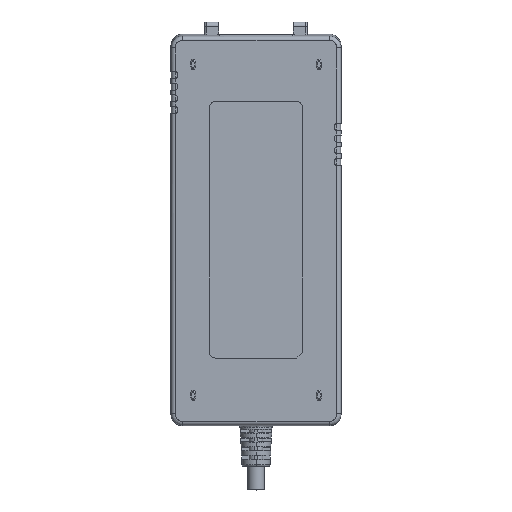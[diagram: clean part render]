
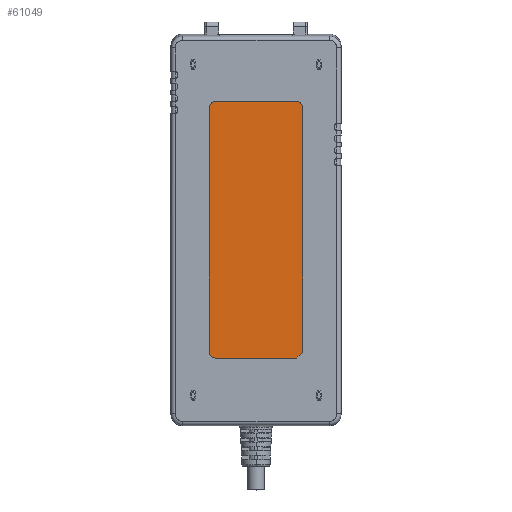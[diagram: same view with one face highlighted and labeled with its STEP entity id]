
A CAD part, top view. The second image highlights one B-rep face of the part: STEP entity #61049.
In plain terms, the highlighted planar face has unit normal (0, 0, 1).
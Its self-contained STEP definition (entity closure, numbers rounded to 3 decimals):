
#150 = CARTESIAN_POINT ( 'NONE',  ( 20., -36.5, 17.146 ) ) ;
#292 = AXIS2_PLACEMENT_3D ( 'NONE', #58303, #6285, #5836 ) ;
#401 = CARTESIAN_POINT ( 'NONE',  ( 19.683, 69.763, 17.146 ) ) ;
#864 = VERTEX_POINT ( 'NONE', #57424 ) ;
#1122 = CARTESIAN_POINT ( 'NONE',  ( 17.5, -39., 17.146 ) ) ;
#1479 = CARTESIAN_POINT ( 'NONE',  ( 20., 33.5, 17.146 ) ) ;
#1690 = ORIENTED_EDGE ( 'NONE', *, *, #52103, .T. ) ;
#2076 = EDGE_CURVE ( 'NONE', #93417, #8669, #22260, .T. ) ;
#2542 = CARTESIAN_POINT ( 'NONE',  ( -17.5, 71., 17.146 ) ) ;
#2626 = ORIENTED_EDGE ( 'NONE', *, *, #73724, .T. ) ;
#2704 = CARTESIAN_POINT ( 'NONE',  ( -5.833, 71., 17.146 ) ) ;
#2976 = CARTESIAN_POINT ( 'NONE',  ( 17.5, -39., 17.146 ) ) ;
#3269 = VERTEX_POINT ( 'NONE', #4182 ) ;
#4182 = CARTESIAN_POINT ( 'NONE',  ( 20., -36.5, 17.146 ) ) ;
#4954 = CARTESIAN_POINT ( 'NONE',  ( -17.5, -39., 17.146 ) ) ;
#5836 = DIRECTION ( 'NONE',  ( 1., 0., 0. ) ) ;
#5890 = CARTESIAN_POINT ( 'NONE',  ( -20., -36.5, 17.146 ) ) ;
#6257 = B_SPLINE_CURVE_WITH_KNOTS ( 'NONE', 3,
 ( #58165, #37172, #36681, #401, #27662, #42461, #66300, #29547, #87838, #38119 ),
 .UNSPECIFIED., .F., .F.,
 ( 4, 2, 2, 2, 4 ),
 ( 0., 0.25, 0.5, 0.75, 1. ),
 .UNSPECIFIED. ) ;
#6285 = DIRECTION ( 'NONE',  ( 0., 0., 1. ) ) ;
#8669 = VERTEX_POINT ( 'NONE', #23422 ) ;
#9661 = CARTESIAN_POINT ( 'NONE',  ( 5.833, -39., 17.146 ) ) ;
#10040 = CARTESIAN_POINT ( 'NONE',  ( -20., 68.5, 17.146 ) ) ;
#10073 = EDGE_CURVE ( 'NONE', #27777, #93139, #6257, .T. ) ;
#12097 = CARTESIAN_POINT ( 'NONE',  ( 17.5, 71., 17.146 ) ) ;
#12545 = CARTESIAN_POINT ( 'NONE',  ( -17.5, 71., 17.146 ) ) ;
#13524 = CARTESIAN_POINT ( 'NONE',  ( -19.683, -37.763, 17.146 ) ) ;
#13969 = CARTESIAN_POINT ( 'NONE',  ( -19.936, -37.151, 17.146 ) ) ;
#16172 = ORIENTED_EDGE ( 'NONE', *, *, #60084, .T. ) ;
#16809 = CARTESIAN_POINT ( 'NONE',  ( -5.833, -39., 17.146 ) ) ;
#17668 = CARTESIAN_POINT ( 'NONE',  ( -20., 33.5, 17.146 ) ) ;
#22033 = CARTESIAN_POINT ( 'NONE',  ( 20., -1.5, 17.146 ) ) ;
#22260 = B_SPLINE_CURVE_WITH_KNOTS ( 'NONE', 3,
 ( #5890, #78507, #13969, #13524, #78984, #70376, #64129, #55562, #35022, #4954 ),
 .UNSPECIFIED., .F., .F.,
 ( 4, 2, 2, 2, 4 ),
 ( 0., 0.25, 0.5, 0.75, 1. ),
 .UNSPECIFIED. ) ;
#23422 = CARTESIAN_POINT ( 'NONE',  ( -17.5, -39., 17.146 ) ) ;
#24626 = CARTESIAN_POINT ( 'NONE',  ( -19.936, 69.151, 17.146 ) ) ;
#25303 = EDGE_CURVE ( 'NONE', #68731, #864, #70399, .T. ) ;
#25582 = CARTESIAN_POINT ( 'NONE',  ( -19.683, 69.763, 17.146 ) ) ;
#27662 = CARTESIAN_POINT ( 'NONE',  ( 19.502, 70.033, 17.146 ) ) ;
#27777 = VERTEX_POINT ( 'NONE', #50346 ) ;
#29296 = CARTESIAN_POINT ( 'NONE',  ( 19.167, -37.333, 17.146 ) ) ;
#29547 = CARTESIAN_POINT ( 'NONE',  ( 18.151, 70.937, 17.146 ) ) ;
#32614 = B_SPLINE_CURVE_WITH_KNOTS ( 'NONE', 3,
 ( #73130, #22033, #1479, #73599 ),
 .UNSPECIFIED., .F., .F.,
 ( 4, 4 ),
 ( 0., 1. ),
 .UNSPECIFIED. ) ;
#35022 = CARTESIAN_POINT ( 'NONE',  ( -17.832, -39., 17.146 ) ) ;
#36681 = CARTESIAN_POINT ( 'NONE',  ( 19.936, 69.151, 17.146 ) ) ;
#37172 = CARTESIAN_POINT ( 'NONE',  ( 20., 68.831, 17.146 ) ) ;
#38119 = CARTESIAN_POINT ( 'NONE',  ( 17.5, 71., 17.146 ) ) ;
#39333 = B_SPLINE_CURVE_WITH_KNOTS ( 'NONE', 3,
 ( #150, #29296, #87593, #1122 ),
 .UNSPECIFIED., .F., .F.,
 ( 4, 4 ),
 ( 0., 1. ),
 .UNSPECIFIED. ) ;
#39440 = CARTESIAN_POINT ( 'NONE',  ( -19.033, 70.502, 17.146 ) ) ;
#39894 = CARTESIAN_POINT ( 'NONE',  ( -20., 68.832, 17.146 ) ) ;
#42461 = CARTESIAN_POINT ( 'NONE',  ( 19.034, 70.502, 17.146 ) ) ;
#43392 = EDGE_CURVE ( 'NONE', #93139, #68731, #73936, .T. ) ;
#46112 = CARTESIAN_POINT ( 'NONE',  ( -19.502, 70.034, 17.146 ) ) ;
#46802 = CARTESIAN_POINT ( 'NONE',  ( -20., -36.5, 17.146 ) ) ;
#50346 = CARTESIAN_POINT ( 'NONE',  ( 20., 68.5, 17.146 ) ) ;
#51477 = ORIENTED_EDGE ( 'NONE', *, *, #25303, .T. ) ;
#52103 = EDGE_CURVE ( 'NONE', #8669, #64334, #92240, .T. ) ;
#54346 = EDGE_CURVE ( 'NONE', #3269, #64334, #39333, .T. ) ;
#55562 = CARTESIAN_POINT ( 'NONE',  ( -18.151, -38.937, 17.146 ) ) ;
#55622 = CARTESIAN_POINT ( 'NONE',  ( -20., 68.5, 17.146 ) ) ;
#57424 = CARTESIAN_POINT ( 'NONE',  ( -20., 68.5, 17.146 ) ) ;
#58165 = CARTESIAN_POINT ( 'NONE',  ( 20., 68.5, 17.146 ) ) ;
#58303 = CARTESIAN_POINT ( 'NONE',  ( 0., 0., 17.146 ) ) ;
#59354 = ORIENTED_EDGE ( 'NONE', *, *, #2076, .T. ) ;
#60084 = EDGE_CURVE ( 'NONE', #3269, #27777, #32614, .T. ) ;
#60719 = CARTESIAN_POINT ( 'NONE',  ( -20., -36.5, 17.146 ) ) ;
#61049 = ADVANCED_FACE ( 'NONE', ( #64076 ), #94196, .T. ) ;
#64076 = FACE_OUTER_BOUND ( 'NONE', #88850, .T. ) ;
#64086 = CARTESIAN_POINT ( 'NONE',  ( 17.5, 71., 17.146 ) ) ;
#64129 = CARTESIAN_POINT ( 'NONE',  ( -18.763, -38.683, 17.146 ) ) ;
#64334 = VERTEX_POINT ( 'NONE', #79123 ) ;
#66300 = CARTESIAN_POINT ( 'NONE',  ( 18.763, 70.683, 17.146 ) ) ;
#67889 = B_SPLINE_CURVE_WITH_KNOTS ( 'NONE', 3,
 ( #10040, #17668, #91703, #46802 ),
 .UNSPECIFIED., .F., .F.,
 ( 4, 4 ),
 ( 0., 1. ),
 .UNSPECIFIED. ) ;
#68116 = CARTESIAN_POINT ( 'NONE',  ( 5.833, 71., 17.146 ) ) ;
#68558 = CARTESIAN_POINT ( 'NONE',  ( -18.151, 70.936, 17.146 ) ) ;
#68731 = VERTEX_POINT ( 'NONE', #2542 ) ;
#69124 = ORIENTED_EDGE ( 'NONE', *, *, #10073, .T. ) ;
#69509 = CARTESIAN_POINT ( 'NONE',  ( -17.5, 71., 17.146 ) ) ;
#70293 = ORIENTED_EDGE ( 'NONE', *, *, #54346, .F. ) ;
#70376 = CARTESIAN_POINT ( 'NONE',  ( -19.034, -38.502, 17.146 ) ) ;
#70399 = B_SPLINE_CURVE_WITH_KNOTS ( 'NONE', 3,
 ( #69509, #82936, #68558, #91052, #39440, #46112, #25582, #24626, #39894, #55622 ),
 .UNSPECIFIED., .F., .F.,
 ( 4, 2, 2, 2, 4 ),
 ( 0., 0.25, 0.5, 0.75, 1. ),
 .UNSPECIFIED. ) ;
#73130 = CARTESIAN_POINT ( 'NONE',  ( 20., -36.5, 17.146 ) ) ;
#73599 = CARTESIAN_POINT ( 'NONE',  ( 20., 68.5, 17.146 ) ) ;
#73724 = EDGE_CURVE ( 'NONE', #864, #93417, #67889, .T. ) ;
#73936 = B_SPLINE_CURVE_WITH_KNOTS ( 'NONE', 3,
 ( #64086, #68116, #2704, #12545 ),
 .UNSPECIFIED., .F., .F.,
 ( 4, 4 ),
 ( 0., 1. ),
 .UNSPECIFIED. ) ;
#76992 = ORIENTED_EDGE ( 'NONE', *, *, #43392, .T. ) ;
#78507 = CARTESIAN_POINT ( 'NONE',  ( -20., -36.831, 17.146 ) ) ;
#78984 = CARTESIAN_POINT ( 'NONE',  ( -19.502, -38.034, 17.146 ) ) ;
#79123 = CARTESIAN_POINT ( 'NONE',  ( 17.5, -39., 17.146 ) ) ;
#80860 = CARTESIAN_POINT ( 'NONE',  ( -17.5, -39., 17.146 ) ) ;
#82936 = CARTESIAN_POINT ( 'NONE',  ( -17.831, 71., 17.146 ) ) ;
#87593 = CARTESIAN_POINT ( 'NONE',  ( 18.333, -38.167, 17.146 ) ) ;
#87838 = CARTESIAN_POINT ( 'NONE',  ( 17.832, 71., 17.146 ) ) ;
#88850 = EDGE_LOOP ( 'NONE', ( #1690, #70293, #16172, #69124, #76992, #51477, #2626, #59354 ) ) ;
#91052 = CARTESIAN_POINT ( 'NONE',  ( -18.763, 70.683, 17.146 ) ) ;
#91703 = CARTESIAN_POINT ( 'NONE',  ( -20., -1.5, 17.146 ) ) ;
#92240 = B_SPLINE_CURVE_WITH_KNOTS ( 'NONE', 3,
 ( #80860, #16809, #9661, #2976 ),
 .UNSPECIFIED., .F., .F.,
 ( 4, 4 ),
 ( 0., 1. ),
 .UNSPECIFIED. ) ;
#93139 = VERTEX_POINT ( 'NONE', #12097 ) ;
#93417 = VERTEX_POINT ( 'NONE', #60719 ) ;
#94196 = PLANE ( 'NONE',  #292 ) ;
